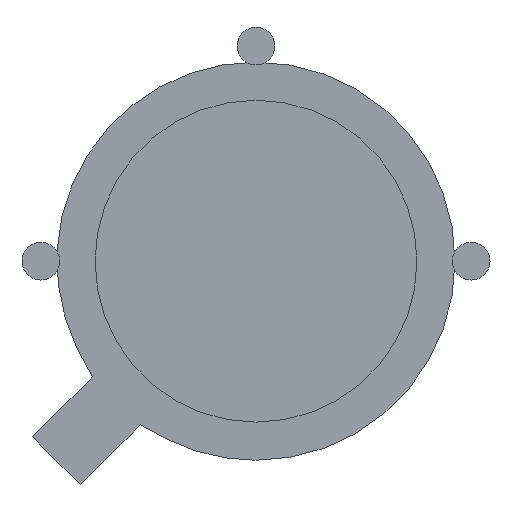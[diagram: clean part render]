
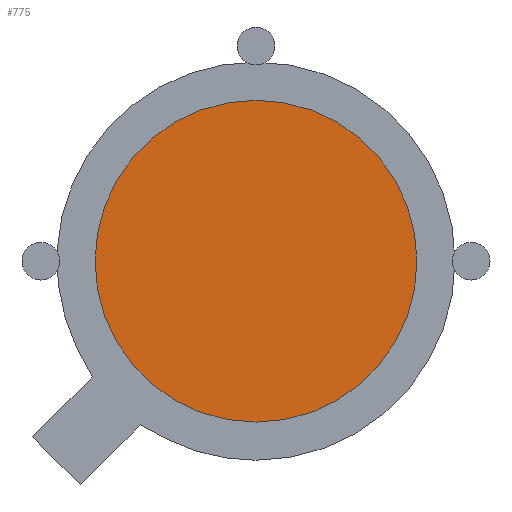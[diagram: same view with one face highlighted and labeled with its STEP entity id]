
A CAD part, front view. The second image highlights one B-rep face of the part: STEP entity #775.
In plain terms, the highlighted planar face has unit normal (0, -1, 0).
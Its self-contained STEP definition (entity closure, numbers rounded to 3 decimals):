
#466 = CARTESIAN_POINT ( 'NONE',  ( 0., 0., -1.9 ) ) ;
#467 = VERTEX_POINT ( 'NONE', #466 ) ;
#468 = CARTESIAN_POINT ( 'NONE',  ( 0., 0., 1.9 ) ) ;
#469 = VERTEX_POINT ( 'NONE', #468 ) ;
#470 = CARTESIAN_POINT ( 'NONE',  ( 0., 0., 0. ) ) ;
#471 = DIRECTION ( 'NONE',  ( 0., -1., 0. ) ) ;
#472 = DIRECTION ( 'NONE',  ( 0., 0., -1. ) ) ;
#473 = AXIS2_PLACEMENT_3D ( 'NONE', #470, #471, #472 ) ;
#474 = CIRCLE ( 'NONE', #473, 1.9) ;
#475 = EDGE_CURVE ( 'NONE', #467, #469, #474, .T. ) ;
#749 = CARTESIAN_POINT ( 'NONE',  ( 0., 0., 0. ) ) ;
#750 = DIRECTION ( 'NONE',  ( 0., -1., 0. ) ) ;
#751 = DIRECTION ( 'NONE',  ( 0., 0., -1. ) ) ;
#752 = AXIS2_PLACEMENT_3D ( 'NONE', #749, #750, #751 ) ;
#753 = CIRCLE ( 'NONE', #752, 1.9) ;
#754 = EDGE_CURVE ( 'NONE', #469, #467, #753, .T. ) ;
#766 = ORIENTED_EDGE ( 'NONE', *, *, #754, .T. ) ;
#767 = ORIENTED_EDGE ( 'NONE', *, *, #475, .T. ) ;
#768 = EDGE_LOOP ( 'NONE', ( #766, #767 ) ) ;
#769 = FACE_OUTER_BOUND ( 'NONE', #768, .T. ) ;
#770 = CARTESIAN_POINT ( 'NONE',  ( 0., 0., 0. ) ) ;
#771 = DIRECTION ( 'NONE',  ( 0., -1., 0. ) ) ;
#772 = DIRECTION ( 'NONE',  ( 0., 0., -1. ) ) ;
#773 = AXIS2_PLACEMENT_3D ( 'NONE', #770, #771, #772 ) ;
#774 = PLANE ( 'NONE', #773 ) ;
#775 = ADVANCED_FACE ( 'NONE', ( #769 ), #774, .T. ) ;
